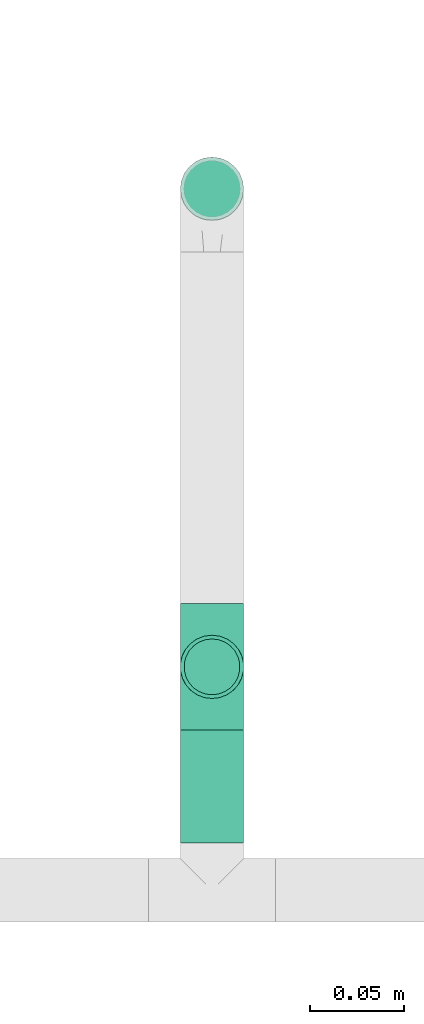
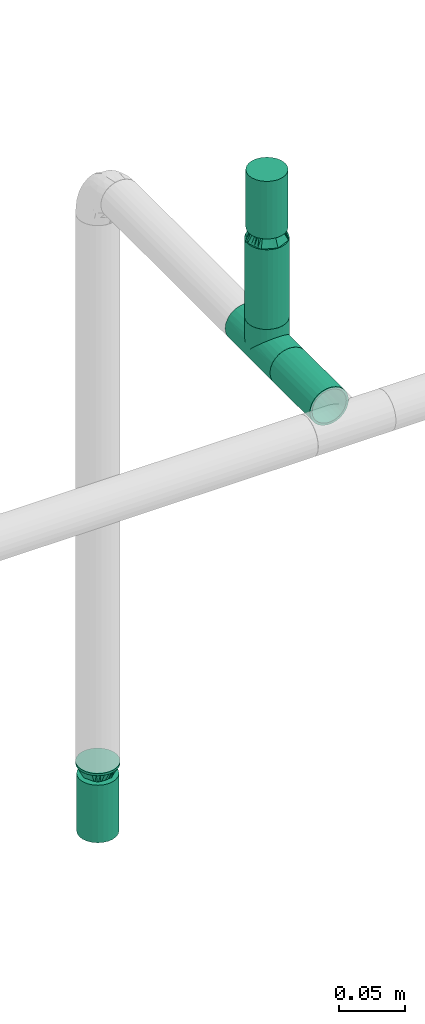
# One storey, part 31 of 51: 3 flow fittings, 2 flow segments, 2 flow terminals.
"""IFC2X3 building model written with IfcOpenShell, lengths in millimetres."""

from ifc_helpers import new_model, entity, si_unit, converted_unit, derived_unit, direction, frame, origin_with_axes, origin_2d_with_axis, place, context, subcontext, project, spatial, hollow_circle, extrude, open_shell, surface_model, source, transform, mapped, type_object, element, save


model = new_model("IFC2X3")

# Units and contexts
model_context = context("Model", 3, precision=0.01, world=frame((0.0, 4.29681676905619e-09, 0.0)), true_north=direction((4.01073788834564e-13, 1.0)))
plan_context = context("Plan", 3, precision=0.01, world=frame((0.0, 4.29681676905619e-09, 0.0)), true_north=direction((4.01073788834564e-13, 1.0)))
body_context = subcontext(model_context, "Body", "Model", "MODEL_VIEW")
ifc_project = project(units=[converted_unit("PLANEANGLEUNIT", "DEGREE", entity("IfcPositiveLengthMeasure", 0.0174532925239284), si_unit("PLANEANGLEUNIT", "RADIAN"), dimensions=[0, 0, 0, 0, 0, 0, 0]), si_unit("AREAUNIT", "SQUARE_METRE"), si_unit("LENGTHUNIT", "METRE", prefix="MILLI"), si_unit("MASSUNIT", "GRAM", prefix="KILO"), si_unit("POWERUNIT", "WATT"), si_unit("PRESSUREUNIT", "PASCAL"), si_unit("FORCEUNIT", "NEWTON", prefix="KILO"), si_unit("ELECTRICVOLTAGEUNIT", "VOLT"), si_unit("ELECTRICCURRENTUNIT", "AMPERE"), si_unit("THERMODYNAMICTEMPERATUREUNIT", "DEGREE_CELSIUS"), si_unit("TIMEUNIT", "SECOND"), si_unit("VOLUMEUNIT", "CUBIC_METRE"), derived_unit("LINEARVELOCITYUNIT", [(si_unit("LENGTHUNIT", "METRE"), 1), (si_unit("TIMEUNIT", "SECOND"), -1)]), derived_unit("VOLUMETRICFLOWRATEUNIT", [(si_unit("VOLUMEUNIT", "CUBIC_METRE"), 1), (si_unit("TIMEUNIT", "SECOND"), -1)]), derived_unit("THERMALTRANSMITTANCEUNIT", [(si_unit("POWERUNIT", "WATT"), 1), (si_unit("THERMODYNAMICTEMPERATUREUNIT", "KELVIN"), -1), (si_unit("AREAUNIT", "SQUARE_METRE"), -1)]), derived_unit("SOUNDPRESSUREUNIT", [(si_unit("PRESSUREUNIT", "PASCAL"), 1)])], contexts=[model_context, plan_context])

# Site, building, storey
site_placement = place(None, frame((0.0, -4.29681676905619e-09, 0.0), z_axis=(0.0, 0.0, 1.0), x_axis=(1.0, 0.0, 0.0)))
site = spatial("IfcSite", under=ifc_project, at=site_placement, Name="ENGM", CompositionType="ELEMENT")
building_placement = place(site_placement, frame((0.0, 4.29681676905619e-09, 0.0), z_axis=(0.0, 0.0, 1.0), x_axis=(1.0, 0.0, 0.0)))
building = spatial("IfcBuilding", under=site, at=building_placement, Name="TH", CompositionType="ELEMENT")
storey_placement = place(building_placement, frame((0.0, 0.0, 210200.0), z_axis=(0.0, 0.0, 1.0), x_axis=(1.0, 0.0, 0.0)))
storey = spatial("IfcBuildingStorey", under=building, at=storey_placement, Name="Nivå F - 0,7 m", CompositionType="ELEMENT", Elevation=210200.0)

# Flow fittings
pipe_fitting_type_1 = type_object("IfcPipeFittingType", Name="magi_pipe_fe_reducer_centric_short_NOR", PredefinedType="TRANSITION")
shared_shape_1 = source(origin_with_axes(), body_context, "Body", "SurfaceModel", [
    surface_model("IfcShellBasedSurfaceModel", [(14.4, 5.35, -9.26647), (14.4, 0.0, -10.7), (14.4, 2.76936, -10.33541), (14.4, 10.33541, -2.76936), (14.4, 7.56604, -7.56604), (14.4, 9.26647, -5.35), (14.4, -5.35, -9.26647), (14.4, -2.76936, -10.33541), (14.4, -7.56604, -7.56604), (14.4, -10.33541, -2.76936), (14.4, -9.26647, -5.35), (14.4, 10.33541, 2.76936), (14.4, 9.26647, 5.35), (14.4, 7.56604, 7.56604), (14.4, 2.76936, 10.33541), (14.4, 5.35, 9.26647), (14.4, -7.56604, 7.56604), (14.4, -2.76936, 10.33541), (14.4, -5.35, 9.26647), (12.4, 7.56604, 7.56604), (12.4, 9.26647, 5.35), (12.4, 10.33541, 2.76936), (12.4, -2.76936, 10.33541), (12.4, -7.56604, 7.56604), (12.4, -5.35, 9.26647), (12.4, -10.33541, 2.76936), (12.4, -9.26647, 5.35), (12.4, 0.0, 10.7), (12.4, -10.33541, -2.76936), (12.4, -10.7, 0.0), (12.4, -5.35, -9.26647), (12.4, 0.0, -10.7), (12.4, -2.76936, -10.33541), (12.4, 2.76936, -10.33541), (12.4, 10.33541, -2.76936), (12.4, 10.7, 0.0), (12.4, -9.26647, -5.35), (12.4, -7.56604, -7.56604), (14.4, -10.7, 0.0), (12.4, 5.35, -9.26647), (12.4, 7.56604, -7.56604), (12.4, 9.26647, -5.35), (14.4, 10.7, 0.0), (12.4, 5.35, 9.26647), (12.4, 2.76936, 10.33541), (14.4, 0.0, 10.7), (14.4, -9.26647, 5.35), (14.4, -10.33541, 2.76936), (-2.0, 11.9501, 11.9501), (-2.0, 0.0, 16.9), (-2.0, 4.37404, 16.32415), (-2.0, 8.45, 14.63583), (-2.0, 14.63583, 8.45), (-2.0, 16.32415, 4.37404), (-2.0, -16.32415, 4.37404), (-2.0, -8.45, 14.63583), (-2.0, -14.63583, 8.45), (-2.0, -11.9501, 11.9501), (-2.0, -4.37404, 16.32415), (-2.0, -16.32415, -4.37404), (-2.0, -16.9, 0.0), (-2.0, -8.45, -14.63583), (-2.0, 16.32415, -4.37404), (-2.0, 11.9501, -11.9501), (-2.0, 14.63583, -8.45), (-2.0, 8.45, -14.63583), (-2.0, 4.37404, -16.32415), (-2.0, 0.0, -16.9), (-2.0, -11.9501, -11.9501), (-2.0, -14.63583, -8.45), (-2.0, -4.37404, -16.32415), (-2.0, 16.9, 0.0), (0.0, 4.37404, -16.32415), (0.0, 8.45, -14.63583), (0.0, 11.9501, -11.9501), (0.0, 0.0, -16.9), (0.0, 16.32415, -4.37404), (0.0, 16.32415, 4.37404), (0.0, 14.63583, -8.45), (0.0, -8.45, -14.63583), (0.0, -4.37404, -16.32415), (0.0, -11.9501, -11.9501), (0.0, -16.32415, -4.37404), (0.0, -14.63583, -8.45), (0.0, -16.32415, 4.37404), (0.0, 16.9, 0.0), (0.0, 14.63583, 8.45), (0.0, 11.9501, 11.9501), (0.0, 4.37404, 16.32415), (0.0, 8.45, 14.63583), (0.0, 0.0, 16.9), (0.0, -14.63583, 8.45), (0.0, -16.9, 0.0), (0.0, -8.45, 14.63583), (0.0, -11.9501, 11.9501), (0.0, -4.37404, 16.32415), (12.4, 9.3625, -2.31662), (0.0, 14.42505, -5.97505), (0.0, 15.66253, -2.98753), (12.4, -6.6875, -6.94985), (0.0, -13.18758, -8.96258), (0.0, 2.98753, -15.66253), (12.4, 0.0, -9.26647), (12.4, 6.6875, -6.94985), (0.0, 8.96258, -13.18758), (12.4, -9.3625, -2.31662), (0.0, -15.66253, -2.98753), (0.0, -14.42505, -5.97505), (0.0, 5.97505, -14.42505), (0.0, -2.98753, -15.66253), (0.0, -8.96258, -13.18758), (0.0, 13.18758, -8.96258), (12.4, 8.025, -4.63324), (12.4, -2.675, -9.26647), (12.4, 2.675, -9.26647), (0.0, -5.97505, -14.42505), (12.4, -8.025, -4.63324), (12.4, -9.3625, 2.31662), (0.0, -14.42505, 5.97505), (0.0, -15.66253, 2.98753), (12.4, 6.6875, 6.94985), (0.0, 13.18758, 8.96258), (0.0, -2.98753, 15.66253), (12.4, 0.0, 9.26647), (12.4, -6.6875, 6.94985), (0.0, -8.96258, 13.18758), (12.4, 9.3625, 2.31662), (0.0, 15.66253, 2.98753), (0.0, 14.42505, 5.97505), (0.0, -5.97505, 14.42505), (0.0, 2.98753, 15.66253), (0.0, 8.96258, 13.18758), (0.0, -13.18758, 8.96258), (12.4, -8.025, 4.63324), (12.4, 2.675, 9.26647), (12.4, -2.675, 9.26647), (0.0, 5.97505, 14.42505), (12.4, 8.025, 4.63324)], [open_shell([[[0, 1, 2]], [[3, 0, 4]], [[3, 4, 5]], [[1, 6, 7]], [[1, 0, 6]], [[8, 9, 10]], [[9, 8, 6]], [[11, 12, 13]], [[14, 13, 15]], [[16, 17, 18]], [[19, 20, 21]], [[22, 23, 24]], [[23, 22, 25]], [[23, 25, 26]], [[22, 27, 25]], [[25, 28, 29]], [[30, 31, 32]], [[30, 28, 33]], [[33, 31, 30]], [[34, 21, 35]], [[28, 9, 29]], [[36, 10, 28]], [[6, 37, 30]], [[36, 37, 8]], [[7, 30, 32]], [[28, 10, 9]], [[9, 38, 29]], [[7, 6, 30]], [[8, 37, 6]], [[8, 10, 36]], [[1, 7, 32]], [[32, 31, 1]], [[33, 2, 31]], [[39, 0, 33]], [[5, 40, 41]], [[39, 40, 4]], [[3, 41, 34]], [[39, 4, 0]], [[0, 2, 33]], [[42, 3, 34]], [[5, 41, 3]], [[5, 4, 40]], [[35, 42, 34]], [[31, 2, 1]], [[21, 11, 35]], [[20, 12, 21]], [[15, 19, 43]], [[20, 19, 13]], [[14, 43, 44]], [[21, 12, 11]], [[11, 42, 35]], [[14, 15, 43]], [[13, 19, 15]], [[13, 12, 20]], [[45, 14, 44]], [[44, 27, 45]], [[22, 17, 27]], [[24, 18, 22]], [[46, 23, 26]], [[24, 23, 16]], [[47, 26, 25]], [[24, 16, 18]], [[18, 17, 22]], [[38, 47, 25]], [[46, 26, 47]], [[46, 16, 23]], [[29, 38, 25]], [[27, 17, 45]], [[48, 49, 50]], [[48, 50, 51]], [[48, 52, 53]], [[48, 53, 49]], [[49, 53, 54]], [[55, 56, 57]], [[55, 58, 49]], [[56, 55, 49]], [[49, 54, 56]], [[54, 59, 60]], [[54, 53, 61]], [[53, 62, 63]], [[63, 62, 64]], [[63, 65, 66]], [[61, 53, 63]], [[67, 63, 66]], [[59, 68, 69]], [[68, 59, 61]], [[61, 67, 70]], [[59, 54, 61]], [[63, 67, 61]], [[53, 71, 62]], [[72, 73, 74]], [[75, 72, 74]], [[74, 76, 77]], [[76, 74, 78]], [[74, 77, 79]], [[75, 79, 80]], [[75, 74, 79]], [[81, 82, 83]], [[82, 81, 79]], [[79, 84, 82]], [[77, 76, 85]], [[77, 86, 87]], [[77, 87, 88]], [[88, 84, 79]], [[88, 87, 89]], [[84, 88, 90]], [[90, 91, 84]], [[92, 82, 84]], [[91, 93, 94]], [[91, 90, 93]], [[93, 90, 95]], [[79, 77, 88]], [[59, 82, 60]], [[69, 83, 59]], [[79, 68, 61]], [[69, 68, 81]], [[80, 61, 70]], [[59, 83, 82]], [[82, 92, 60]], [[80, 79, 61]], [[81, 68, 79]], [[81, 83, 69]], [[75, 80, 70]], [[70, 67, 75]], [[66, 72, 67]], [[65, 73, 66]], [[78, 63, 64]], [[65, 63, 74]], [[76, 64, 62]], [[65, 74, 73]], [[73, 72, 66]], [[85, 76, 62]], [[78, 64, 76]], [[78, 74, 63]], [[71, 85, 62]], [[67, 72, 75]], [[53, 77, 71]], [[52, 86, 53]], [[89, 48, 51]], [[52, 48, 87]], [[88, 51, 50]], [[53, 86, 77]], [[77, 85, 71]], [[88, 89, 51]], [[87, 48, 89]], [[87, 86, 52]], [[90, 88, 50]], [[50, 49, 90]], [[58, 95, 49]], [[55, 93, 58]], [[91, 57, 56]], [[55, 57, 94]], [[84, 56, 54]], [[55, 94, 93]], [[93, 95, 58]], [[92, 84, 54]], [[91, 56, 84]], [[91, 94, 57]], [[60, 92, 54]], [[49, 95, 90]], [[43, 24, 35]], [[35, 24, 30]], [[30, 39, 35]], [[30, 24, 29]], [[87, 74, 92]], [[75, 92, 74]], [[81, 92, 75]], [[74, 87, 85]], [[96, 97, 98]], [[81, 99, 100]], [[101, 102, 75]], [[98, 85, 35]], [[74, 103, 104]], [[104, 103, 39]], [[105, 106, 107]], [[39, 108, 104]], [[102, 109, 75]], [[110, 99, 81]], [[35, 96, 98]], [[103, 111, 112]], [[109, 102, 113]], [[29, 92, 106]], [[102, 101, 114]], [[110, 115, 30]], [[96, 112, 97]], [[107, 116, 105]], [[29, 106, 105]], [[113, 115, 109]], [[30, 115, 113]], [[116, 107, 100]], [[108, 39, 114]], [[111, 103, 74]], [[111, 97, 112]], [[99, 110, 30]], [[116, 100, 99]], [[101, 108, 114]], [[117, 118, 119]], [[87, 120, 121]], [[122, 123, 90]], [[119, 92, 29]], [[94, 124, 125]], [[125, 124, 24]], [[126, 127, 128]], [[24, 129, 125]], [[123, 130, 90]], [[131, 120, 87]], [[29, 117, 119]], [[124, 132, 133]], [[130, 123, 134]], [[35, 85, 127]], [[123, 122, 135]], [[131, 136, 43]], [[117, 133, 118]], [[128, 137, 126]], [[35, 127, 126]], [[134, 136, 130]], [[43, 136, 134]], [[137, 128, 121]], [[129, 24, 135]], [[132, 124, 94]], [[132, 118, 133]], [[120, 131, 43]], [[137, 121, 120]], [[122, 129, 135]], [[6, 0, 3]], [[46, 6, 3]], [[6, 46, 9]], [[11, 3, 42]], [[3, 13, 46]], [[14, 45, 13]], [[46, 13, 45]], [[9, 47, 38]], [[46, 47, 9]], [[17, 16, 46]], [[45, 17, 46]], [[3, 11, 13]], [[27, 44, 43]], [[27, 43, 19]], [[27, 19, 25]], [[34, 25, 19]], [[34, 19, 21]], [[28, 25, 34]], [[33, 34, 41]], [[40, 39, 33]], [[40, 33, 41]], [[28, 34, 33]], [[28, 37, 36]], [[37, 28, 30]], [[90, 87, 92]], [[92, 94, 90]]])]),
])
flow_fitting_1_placement = place(storey_placement, frame((900100.0, 486575.40642, 2409.35200000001), z_axis=(0.0, -1.0, 0.0), x_axis=(0.0, 0.0, -1.0)))
element("IfcFlowFitting", 1, at=flow_fitting_1_placement, inside=storey, type_object=pipe_fitting_type_1, Name="magi_pipe_fe_reducer_centric_short_NOR", context=body_context, shape_type="MappedRepresentation", body=[
    mapped(shared_shape_1, transform((0.0, 0.0, 0.0), scale=1.0)),
])
shared_shape_2 = source(origin_with_axes(), body_context, "Body", "SurfaceModel", [
    surface_model("IfcShellBasedSurfaceModel", [(14.4, 4.37404, -16.32415), (14.4, 8.45, -14.63583), (14.4, 11.9501, -11.9501), (14.4, -8.45, -14.63583), (14.4, 16.32415, -4.37404), (14.4, 16.32415, 4.37404), (14.4, 14.63583, -8.45), (14.4, 0.0, -16.9), (14.4, -4.37404, -16.32415), (14.4, -11.9501, -11.9501), (14.4, -16.32415, -4.37404), (14.4, -14.63583, -8.45), (14.4, -16.32415, 4.37404), (14.4, 16.9, 0.0), (14.4, 14.63583, 8.45), (14.4, 11.9501, 11.9501), (14.4, 4.37404, 16.32415), (14.4, 8.45, 14.63583), (14.4, 0.0, 16.9), (14.4, -14.63583, 8.45), (14.4, -16.9, 0.0), (14.4, -8.45, 14.63583), (14.4, -11.9501, 11.9501), (14.4, -4.37404, 16.32415), (12.4, 4.37404, 16.32415), (12.4, -14.63583, 8.45), (12.4, 0.0, 16.9), (12.4, 16.32415, 4.37404), (12.4, 8.45, 14.63583), (12.4, 11.9501, 11.9501), (12.4, 14.63583, 8.45), (12.4, -8.45, 14.63583), (12.4, -11.9501, 11.9501), (12.4, -4.37404, 16.32415), (12.4, -16.32415, 4.37404), (12.4, -16.32415, -4.37404), (12.4, -16.9, 0.0), (12.4, -8.45, -14.63583), (12.4, 16.32415, -4.37404), (12.4, 11.9501, -11.9501), (12.4, 14.63583, -8.45), (12.4, 8.45, -14.63583), (12.4, 4.37404, -16.32415), (12.4, 0.0, -16.9), (12.4, -11.9501, -11.9501), (12.4, -14.63583, -8.45), (12.4, -4.37404, -16.32415), (12.4, 16.9, 0.0), (-2.0, 10.33541, 2.76936), (-2.0, 0.0, 10.7), (-2.0, 2.76936, 10.33541), (-2.0, 7.56604, 7.56604), (-2.0, 5.35, 9.26647), (-2.0, 9.26647, 5.35), (-2.0, -9.26647, 5.35), (-2.0, -2.76936, 10.33541), (-2.0, -7.56604, 7.56604), (-2.0, -5.35, 9.26647), (-2.0, -10.33541, 2.76936), (-2.0, -10.33541, -2.76936), (-2.0, -10.7, 0.0), (-2.0, 10.33541, -2.76936), (-2.0, 7.56604, -7.56604), (-2.0, 9.26647, -5.35), (-2.0, 5.35, -9.26647), (-2.0, -5.35, -9.26647), (-2.0, 2.76936, -10.33541), (-2.0, -7.56604, -7.56604), (-2.0, -9.26647, -5.35), (-2.0, 0.0, -10.7), (-2.0, -2.76936, -10.33541), (-2.0, 10.7, 0.0), (0.0, 5.35, -9.26647), (0.0, 0.0, -10.7), (0.0, 2.76936, -10.33541), (0.0, 10.33541, -2.76936), (0.0, 7.56604, -7.56604), (0.0, -5.35, -9.26647), (0.0, 9.26647, -5.35), (0.0, -9.26647, 5.35), (0.0, -2.76936, -10.33541), (0.0, -7.56604, -7.56604), (0.0, -10.33541, -2.76936), (0.0, -9.26647, -5.35), (0.0, 10.33541, 2.76936), (0.0, 10.7, 0.0), (0.0, 9.26647, 5.35), (0.0, 7.56604, 7.56604), (0.0, 2.76936, 10.33541), (0.0, 0.0, 10.7), (0.0, 5.35, 9.26647), (0.0, -10.33541, 2.76936), (0.0, -10.7, 0.0), (0.0, -7.56604, 7.56604), (0.0, -2.76936, 10.33541), (0.0, -5.35, 9.26647), (0.0, -9.3625, -2.31662), (12.4, -14.42505, -5.97505), (12.4, -15.66253, -2.98753), (0.0, 6.6875, -6.94985), (12.4, 8.96258, -13.18758), (0.0, -6.6875, -6.94985), (12.4, -8.96258, -13.18758), (0.0, 9.3625, -2.31662), (12.4, 15.66253, -2.98753), (12.4, 14.42505, -5.97505), (12.4, -5.97505, -14.42505), (12.4, 5.97505, -14.42505), (0.0, 2.675, -9.26647), (12.4, 13.18758, -8.96258), (0.0, -2.675, -9.26647), (12.4, -13.18758, -8.96258), (0.0, -8.025, -4.63324), (12.4, 2.98753, -15.66253), (0.0, 0.0, -9.26647), (12.4, -2.98753, -15.66253), (0.0, 8.025, -4.63324), (0.0, 9.3625, 2.31662), (12.4, 14.42505, 5.97505), (12.4, 15.66253, 2.98753), (0.0, -6.6875, 6.94985), (12.4, -8.96258, 13.18758), (0.0, 6.6875, 6.94985), (12.4, 8.96258, 13.18758), (0.0, -9.3625, 2.31662), (12.4, -15.66253, 2.98753), (12.4, -14.42505, 5.97505), (12.4, 5.97505, 14.42505), (12.4, -5.97505, 14.42505), (0.0, -2.675, 9.26647), (12.4, -13.18758, 8.96258), (0.0, 2.675, 9.26647), (12.4, 13.18758, 8.96258), (0.0, 8.025, 4.63324), (12.4, -2.98753, 15.66253), (0.0, 0.0, 9.26647), (12.4, 2.98753, 15.66253), (0.0, -8.025, 4.63324)], [open_shell([[[0, 1, 2]], [[3, 0, 2]], [[2, 4, 5]], [[4, 2, 6]], [[2, 5, 3]], [[7, 3, 8]], [[7, 0, 3]], [[9, 10, 11]], [[10, 9, 3]], [[3, 12, 10]], [[5, 4, 13]], [[5, 14, 15]], [[5, 15, 16]], [[16, 12, 3]], [[16, 15, 17]], [[12, 16, 18]], [[18, 19, 12]], [[20, 10, 12]], [[19, 21, 22]], [[19, 18, 21]], [[21, 18, 23]], [[3, 5, 16]], [[24, 25, 26]], [[27, 24, 28]], [[29, 30, 27]], [[29, 27, 28]], [[25, 24, 27]], [[31, 25, 32]], [[31, 33, 26]], [[26, 25, 31]], [[34, 25, 27]], [[34, 35, 36]], [[34, 27, 37]], [[27, 38, 39]], [[39, 38, 40]], [[39, 41, 42]], [[37, 27, 39]], [[42, 43, 39]], [[35, 44, 45]], [[44, 35, 37]], [[37, 43, 46]], [[35, 34, 37]], [[39, 43, 37]], [[38, 27, 47]], [[35, 10, 36]], [[45, 11, 35]], [[3, 44, 37]], [[45, 44, 9]], [[8, 37, 46]], [[35, 11, 10]], [[10, 20, 36]], [[8, 3, 37]], [[9, 44, 3]], [[9, 11, 45]], [[7, 8, 46]], [[46, 43, 7]], [[42, 0, 43]], [[41, 1, 42]], [[6, 39, 40]], [[41, 39, 2]], [[4, 40, 38]], [[41, 2, 1]], [[1, 0, 42]], [[13, 4, 38]], [[6, 40, 4]], [[6, 2, 39]], [[47, 13, 38]], [[43, 0, 7]], [[27, 5, 47]], [[30, 14, 27]], [[17, 29, 28]], [[30, 29, 15]], [[16, 28, 24]], [[27, 14, 5]], [[5, 13, 47]], [[16, 17, 28]], [[15, 29, 17]], [[15, 14, 30]], [[18, 16, 24]], [[24, 26, 18]], [[33, 23, 26]], [[31, 21, 33]], [[19, 32, 25]], [[31, 32, 22]], [[12, 25, 34]], [[31, 22, 21]], [[21, 23, 33]], [[20, 12, 34]], [[19, 25, 12]], [[19, 22, 32]], [[36, 20, 34]], [[26, 23, 18]], [[48, 49, 50]], [[51, 50, 52]], [[51, 53, 48]], [[51, 48, 50]], [[49, 48, 54]], [[55, 56, 57]], [[56, 55, 54]], [[58, 59, 60]], [[54, 55, 49]], [[58, 54, 59]], [[54, 48, 61]], [[59, 54, 61]], [[62, 61, 63]], [[59, 62, 64]], [[61, 62, 59]], [[65, 64, 66]], [[59, 67, 68]], [[67, 59, 65]], [[65, 69, 70]], [[65, 59, 64]], [[66, 69, 65]], [[61, 48, 71]], [[72, 73, 74]], [[75, 72, 76]], [[77, 72, 75]], [[75, 76, 78]], [[79, 77, 75]], [[73, 77, 80]], [[73, 72, 77]], [[81, 82, 83]], [[82, 81, 77]], [[77, 79, 82]], [[84, 75, 85]], [[84, 86, 87]], [[75, 87, 79]], [[88, 89, 87]], [[88, 87, 90]], [[79, 87, 89]], [[82, 91, 92]], [[79, 91, 82]], [[93, 94, 95]], [[94, 93, 79]], [[89, 94, 79]], [[75, 84, 87]], [[59, 82, 60]], [[68, 83, 59]], [[77, 67, 65]], [[68, 67, 81]], [[80, 65, 70]], [[59, 83, 82]], [[82, 92, 60]], [[80, 77, 65]], [[81, 67, 77]], [[81, 83, 68]], [[73, 80, 70]], [[70, 69, 73]], [[66, 74, 69]], [[64, 72, 66]], [[78, 62, 63]], [[64, 62, 76]], [[75, 63, 61]], [[64, 76, 72]], [[72, 74, 66]], [[85, 75, 61]], [[78, 63, 75]], [[78, 76, 62]], [[71, 85, 61]], [[69, 74, 73]], [[48, 84, 71]], [[53, 86, 48]], [[90, 51, 52]], [[53, 51, 87]], [[88, 52, 50]], [[48, 86, 84]], [[84, 85, 71]], [[88, 90, 52]], [[87, 51, 90]], [[87, 86, 53]], [[89, 88, 50]], [[50, 49, 89]], [[55, 94, 49]], [[57, 95, 55]], [[79, 56, 54]], [[57, 56, 93]], [[91, 54, 58]], [[57, 93, 95]], [[95, 94, 55]], [[92, 91, 58]], [[79, 54, 91]], [[79, 93, 56]], [[60, 92, 58]], [[49, 94, 89]], [[29, 26, 39]], [[39, 47, 29]], [[36, 26, 32]], [[36, 44, 43]], [[43, 39, 36]], [[36, 39, 26]], [[92, 95, 77]], [[85, 95, 90]], [[85, 72, 77]], [[85, 77, 95]], [[96, 97, 98]], [[92, 96, 98]], [[99, 100, 72]], [[98, 36, 92]], [[44, 101, 102]], [[101, 77, 102]], [[103, 104, 105]], [[85, 47, 104]], [[77, 106, 102]], [[107, 108, 72]], [[109, 39, 99]], [[106, 77, 110]], [[101, 111, 112]], [[113, 114, 108]], [[100, 99, 39]], [[110, 115, 106]], [[99, 116, 109]], [[100, 107, 72]], [[96, 112, 97]], [[105, 116, 103]], [[85, 104, 103]], [[108, 107, 113]], [[113, 43, 114]], [[116, 105, 109]], [[114, 115, 110]], [[43, 115, 114]], [[111, 101, 44]], [[111, 97, 112]], [[117, 118, 119]], [[85, 117, 119]], [[120, 121, 95]], [[119, 47, 85]], [[29, 122, 123]], [[122, 90, 123]], [[124, 125, 126]], [[92, 36, 125]], [[90, 127, 123]], [[128, 129, 95]], [[130, 32, 120]], [[127, 90, 131]], [[122, 132, 133]], [[134, 135, 129]], [[121, 120, 32]], [[131, 136, 127]], [[120, 137, 130]], [[121, 128, 95]], [[117, 133, 118]], [[126, 137, 124]], [[92, 125, 124]], [[129, 128, 134]], [[134, 26, 135]], [[137, 126, 130]], [[135, 136, 131]], [[26, 136, 135]], [[132, 122, 29]], [[132, 118, 133]]])]),
])
flow_fitting_2_placement = place(storey_placement, frame((900100.0, 486320.30177, 3060.65001000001), z_axis=(1.0, 0.0, 0.0), x_axis=(0.0, 0.0, -1.0)))
element("IfcFlowFitting", 2, at=flow_fitting_2_placement, inside=storey, type_object=pipe_fitting_type_1, Name="magi_pipe_fe_reducer_centric_short_NOR", context=body_context, shape_type="MappedRepresentation", body=[
    mapped(shared_shape_2, transform((0.0, 0.0, 0.0), scale=1.0)),
])
pipe_fitting_type_2 = type_object("IfcPipeFittingType", Name="magi_pipe_fe_tee_centric_90_NOR", PredefinedType="JUNCTION")
shared_shape_3 = source(origin_with_axes(), body_context, "Body", "SurfaceModel", [
    surface_model("IfcShellBasedSurfaceModel", [(-33.8, 4.37404, -16.32415), (-33.8, 0.0, -16.9), (-33.8, 16.32415, -4.37404), (-33.8, 8.45, -14.63583), (-33.8, 11.9501, -11.9501), (-33.8, 14.63583, -8.45), (-33.8, -16.9, 0.0), (-33.8, -11.9501, -11.9501), (-33.8, -14.63583, -8.45), (-33.8, -8.45, -14.63583), (-33.8, -4.37404, -16.32415), (-33.8, -16.32415, -4.37404), (-33.8, 14.63583, 8.45), (-33.8, 16.32415, 4.37404), (-33.8, -8.45, 14.63583), (-33.8, 8.45, 14.63583), (-33.8, 11.9501, 11.9501), (-33.8, 4.37404, 16.32415), (-33.8, 0.0, 16.9), (-33.8, -11.9501, 11.9501), (-33.8, -14.63583, 8.45), (-33.8, -16.32415, 4.37404), (-33.8, -4.37404, 16.32415), (-33.8, 16.9, 0.0), (33.8, 4.37404, -16.32415), (33.8, -16.9, 0.0), (33.8, 0.0, -16.9), (33.8, 14.63583, -8.45), (33.8, 8.45, -14.63583), (33.8, 16.32415, -4.37404), (33.8, 11.9501, -11.9501), (33.8, -16.32415, 4.37404), (33.8, -8.45, -14.63583), (33.8, -4.37404, -16.32415), (33.8, -11.9501, -11.9501), (33.8, -14.63583, -8.45), (33.8, -16.32415, -4.37404), (33.8, 16.32415, 4.37404), (33.8, 8.45, 14.63583), (33.8, 14.63583, 8.45), (33.8, 11.9501, 11.9501), (33.8, -8.45, 14.63583), (33.8, 4.37404, 16.32415), (33.8, -14.63583, 8.45), (33.8, -11.9501, 11.9501), (33.8, 0.0, 16.9), (33.8, -4.37404, 16.32415), (33.8, 16.9, 0.0), (16.28698, -16.28698, 4.51047), (16.9, -16.9, 0.0), (14.62704, -14.62704, 8.4652), (9.47213, -9.47213, 13.99602), (12.26343, -12.26343, 11.62834), (-16.9, -16.9, 0.0), (-16.28698, -16.28698, 4.51047), (-14.62704, -14.62704, 8.4652), (-12.26343, -12.26343, 11.62834), (-9.47213, -9.47213, 13.99602), (-6.42894, -6.42894, 15.62942), (6.42894, -6.42894, 15.62942), (3.24522, -3.24522, 16.58549), (0.0, 0.0, 16.9), (-3.24522, -3.24522, 16.58549), (3.24522, -3.24522, -16.58549), (0.0, 0.0, -16.9), (-3.24522, -3.24522, -16.58549), (-6.42894, -6.42894, -15.62942), (6.42894, -6.42894, -15.62942), (9.47213, -9.47213, -13.99602), (12.26343, -12.26343, -11.62834), (14.62704, -14.62704, -8.4652), (16.28698, -16.28698, -4.51047), (-9.47213, -9.47213, -13.99602), (-12.26343, -12.26343, -11.62834), (-16.28698, -16.28698, -4.51047), (-14.62704, -14.62704, -8.4652), (4.37404, -25.35, -16.32415), (-16.9, -25.35, 0.0), (0.0, -25.35, -16.9), (14.63583, -25.35, -8.45), (8.45, -25.35, -14.63583), (16.32415, -25.35, -4.37404), (11.9501, -25.35, -11.9501), (-11.9501, -25.35, -11.9501), (-8.45, -25.35, -14.63583), (-4.37404, -25.35, -16.32415), (-14.63583, -25.35, -8.45), (-16.32415, -25.35, -4.37404), (16.9, -25.35, 0.0), (8.45, -25.35, 14.63583), (16.32415, -25.35, 4.37404), (14.63583, -25.35, 8.45), (-8.45, -25.35, 14.63583), (11.9501, -25.35, 11.9501), (4.37404, -25.35, 16.32415), (-16.32415, -25.35, 4.37404), (-11.9501, -25.35, 11.9501), (-14.63583, -25.35, 8.45), (0.0, -25.35, 16.9), (-4.37404, -25.35, 16.32415)], [open_shell([[[0, 1, 2]], [[3, 0, 4]], [[0, 2, 5]], [[4, 0, 5]], [[6, 2, 1]], [[7, 8, 9]], [[1, 10, 9]], [[11, 6, 8]], [[1, 9, 8]], [[1, 8, 6]], [[6, 12, 2]], [[12, 13, 2]], [[14, 12, 6]], [[12, 14, 15]], [[16, 12, 15]], [[17, 15, 18]], [[19, 14, 20]], [[21, 20, 14]], [[22, 18, 14]], [[14, 6, 21]], [[14, 18, 15]], [[23, 2, 13]], [[24, 25, 26]], [[27, 24, 28]], [[27, 29, 24]], [[27, 28, 30]], [[31, 25, 24]], [[26, 32, 33]], [[26, 34, 32]], [[35, 25, 36]], [[35, 34, 26]], [[25, 35, 26]], [[24, 29, 31]], [[29, 37, 38]], [[38, 37, 39]], [[38, 31, 29]], [[38, 39, 40]], [[41, 38, 42]], [[43, 41, 44]], [[41, 43, 31]], [[41, 45, 46]], [[41, 31, 38]], [[42, 45, 41]], [[29, 47, 37]], [[31, 43, 48]], [[25, 31, 49]], [[49, 31, 48]], [[43, 50, 48]], [[44, 41, 51]], [[50, 43, 52]], [[51, 52, 44]], [[52, 43, 44]], [[53, 54, 21]], [[53, 21, 6]], [[21, 54, 20]], [[54, 55, 20]], [[56, 57, 19]], [[19, 20, 56]], [[19, 57, 14]], [[56, 20, 55]], [[14, 57, 58]], [[51, 41, 59]], [[60, 45, 61]], [[59, 46, 60]], [[46, 59, 41]], [[60, 46, 45]], [[61, 45, 42]], [[39, 37, 13]], [[16, 38, 40]], [[12, 40, 39]], [[42, 38, 15]], [[23, 37, 47]], [[62, 61, 18]], [[62, 22, 58]], [[22, 62, 18]], [[58, 22, 14]], [[61, 17, 18]], [[42, 17, 61]], [[15, 17, 42]], [[15, 38, 16]], [[12, 16, 40]], [[13, 12, 39]], [[37, 23, 13]], [[5, 27, 30]], [[23, 47, 29]], [[30, 28, 3]], [[27, 2, 29]], [[26, 33, 63]], [[26, 64, 24]], [[64, 26, 63]], [[28, 24, 0]], [[64, 0, 24]], [[4, 30, 3]], [[2, 27, 5]], [[5, 30, 4]], [[2, 23, 29]], [[65, 66, 10]], [[1, 0, 64]], [[1, 65, 10]], [[66, 9, 10]], [[0, 3, 28]], [[1, 64, 65]], [[63, 33, 67]], [[32, 34, 68]], [[69, 68, 34]], [[35, 70, 69]], [[69, 34, 35]], [[32, 68, 67]], [[36, 25, 49]], [[36, 71, 35]], [[71, 36, 49]], [[35, 71, 70]], [[72, 9, 66]], [[72, 7, 9]], [[7, 72, 73]], [[7, 73, 8]], [[74, 53, 11]], [[75, 74, 8]], [[74, 11, 8]], [[11, 53, 6]], [[75, 8, 73]], [[32, 67, 33]], [[76, 77, 78]], [[79, 76, 80]], [[79, 81, 76]], [[79, 80, 82]], [[77, 76, 81]], [[78, 83, 84]], [[84, 85, 78]], [[86, 77, 87]], [[83, 78, 86]], [[77, 86, 78]], [[81, 88, 77]], [[89, 88, 90]], [[89, 90, 91]], [[92, 77, 89]], [[89, 91, 93]], [[92, 89, 94]], [[95, 96, 97]], [[96, 95, 92]], [[92, 98, 99]], [[95, 77, 92]], [[94, 98, 92]], [[89, 77, 88]], [[77, 95, 53]], [[54, 53, 95]], [[97, 96, 56]], [[96, 92, 57]], [[95, 97, 54]], [[58, 92, 99]], [[55, 54, 97]], [[56, 55, 97]], [[58, 57, 92]], [[98, 61, 62]], [[58, 99, 62]], [[56, 96, 57]], [[62, 99, 98]], [[94, 60, 98]], [[89, 59, 94]], [[91, 90, 48]], [[52, 93, 91]], [[93, 51, 89]], [[49, 90, 88]], [[59, 60, 94]], [[51, 59, 89]], [[49, 48, 90]], [[50, 52, 91]], [[48, 50, 91]], [[51, 93, 52]], [[98, 60, 61]], [[88, 81, 49]], [[71, 49, 81]], [[79, 82, 69]], [[82, 80, 68]], [[81, 79, 71]], [[67, 80, 76]], [[70, 71, 79]], [[69, 70, 79]], [[67, 68, 80]], [[78, 64, 63]], [[67, 76, 63]], [[69, 82, 68]], [[63, 76, 78]], [[85, 65, 78]], [[84, 66, 85]], [[86, 87, 74]], [[86, 73, 83]], [[72, 84, 83]], [[53, 87, 77]], [[66, 65, 85]], [[72, 66, 84]], [[53, 74, 87]], [[75, 73, 86]], [[74, 75, 86]], [[72, 83, 73]], [[78, 65, 64]]])]),
])
flow_fitting_3_placement = place(storey_placement, frame((900100.0, 486320.30177, 2949.56988), z_axis=(1.0, 0.0, 0.0), x_axis=(0.0, -1.0, 0.0)))
element("IfcFlowFitting", 3, at=flow_fitting_3_placement, inside=storey, type_object=pipe_fitting_type_2, Name="magi_pipe_fe_tee_centric_90_NOR", context=body_context, shape_type="MappedRepresentation", body=[
    mapped(shared_shape_3, transform((0.0, 0.0, 0.0), scale=1.0)),
])

# Flow segments
pipe_segment_type = type_object("IfcPipeSegmentType", Name="Stålrør normaltykke", PredefinedType="RIGIDSEGMENT")
shared_shape_4 = source(origin_with_axes(), body_context, "Body", "SweptSolid", [
    extrude(hollow_circle(Radius=16.9, WallThickness=2.0, at=origin_2d_with_axis()), frame((0.0, 0.0, 0.0), z_axis=(1.0, 0.0, 0.0), x_axis=(0.0, 1.0, 0.0)), (0.0, 0.0, 1.0), 73.3),
])
flow_segment_1_placement = place(storey_placement, frame((900100.0, 486320.30177, 3048.25000999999), z_axis=(1.0, 0.0, 0.0), x_axis=(0.0, 0.0, -1.0)))
element("IfcFlowSegment", 4, at=flow_segment_1_placement, inside=storey, type_object=pipe_segment_type, Name="Stålrør normaltykke", context=body_context, shape_type="MappedRepresentation", body=[
    mapped(shared_shape_4, transform((0.0, 0.0, 0.0), scale=1.0)),
])
shared_shape_5 = source(origin_with_axes(), body_context, "Body", "SweptSolid", [
    extrude(hollow_circle(Radius=16.9, WallThickness=2.0, at=origin_2d_with_axis()), frame((0.0, 0.0, 0.0), z_axis=(1.0, 0.0, 0.0), x_axis=(0.0, 1.0, 0.0)), (0.0, 0.0, 1.0), 60.1),
])
flow_segment_2_placement = place(storey_placement, frame((900100.0, 486226.37538, 2949.56988), z_axis=(0.0, 0.0, 1.0), x_axis=(0.0, 1.0, 0.0)))
element("IfcFlowSegment", 5, at=flow_segment_2_placement, inside=storey, type_object=pipe_segment_type, Name="Stålrør normaltykke", context=body_context, shape_type="MappedRepresentation", body=[
    mapped(shared_shape_5, transform((0.0, 0.0, 0.0), scale=1.0)),
])

# Flow terminals
fire_suppression_terminal_type_1 = type_object("IfcFireSuppressionTerminalType", Name="SP-15-K80-68DGR-STD-HIMLING", PredefinedType="NOTDEFINED")
shared_shape_6 = source(origin_with_axes(), body_context, "Body", "SurfaceModel", [
    surface_model("IfcShellBasedSurfaceModel", [(4.1411, -15.45481, 53.0), (8.0, -13.85641, 53.0), (11.31371, -11.31371, 53.0), (-8.0, -13.85641, 53.0), (15.45481, -4.1411, 53.0), (16.0, 0.0, 53.0), (13.85641, -8.0, 53.0), (0.0, -16.0, 53.0), (-4.1411, -15.45481, 53.0), (-13.85641, -8.0, 53.0), (-11.31371, -11.31371, 53.0), (-15.45481, -4.1411, 53.0), (15.45481, 4.1411, 53.0), (13.85641, 8.0, 53.0), (11.31371, 11.31371, 53.0), (-4.1411, 15.45481, 53.0), (8.0, 13.85641, 53.0), (4.1411, 15.45481, 53.0), (0.0, 16.0, 53.0), (-13.85641, 8.0, 53.0), (-15.45481, 4.1411, 53.0), (-16.0, 0.0, 53.0), (-11.31371, 11.31371, 53.0), (-8.0, 13.85641, 53.0), (0.0, 16.0, 0.0), (4.1411, 15.45481, 0.0), (8.0, 13.85641, 0.0), (-4.1411, 15.45481, 0.0), (11.31371, 11.31371, 0.0), (13.85641, 8.0, 0.0), (15.45481, 4.1411, 0.0), (-15.45481, -4.1411, 0.0), (-11.31371, 11.31371, 0.0), (-8.0, 13.85641, 0.0), (-13.85641, 8.0, 0.0), (-15.45481, 4.1411, 0.0), (-16.0, 0.0, 0.0), (4.1411, -15.45481, 0.0), (16.0, 0.0, 0.0), (15.45481, -4.1411, 0.0), (13.85641, -8.0, 0.0), (11.31371, -11.31371, 0.0), (8.0, -13.85641, 0.0), (-8.0, -13.85641, 0.0), (-13.85641, -8.0, 0.0), (-11.31371, -11.31371, 0.0), (0.0, -16.0, 0.0), (-4.1411, -15.45481, 0.0)], [open_shell([[[0, 1, 2]], [[3, 0, 2]], [[4, 5, 2]], [[4, 2, 6]], [[3, 2, 5]], [[7, 3, 8]], [[7, 0, 3]], [[3, 9, 10]], [[9, 3, 11]], [[5, 11, 3]], [[5, 12, 11]], [[12, 13, 14]], [[15, 12, 14]], [[16, 17, 18]], [[14, 16, 15]], [[18, 15, 16]], [[11, 19, 20]], [[21, 11, 20]], [[22, 15, 23]], [[15, 22, 19]], [[19, 11, 15]], [[11, 12, 15]], [[24, 25, 26]], [[27, 24, 26]], [[28, 29, 30]], [[27, 26, 28]], [[27, 28, 31]], [[27, 32, 33]], [[32, 27, 34]], [[34, 31, 35]], [[31, 34, 27]], [[35, 31, 36]], [[28, 30, 31]], [[37, 38, 39]], [[37, 39, 40]], [[41, 42, 37]], [[41, 37, 40]], [[38, 37, 43]], [[44, 43, 45]], [[43, 44, 31]], [[43, 46, 47]], [[43, 31, 38]], [[37, 46, 43]], [[38, 31, 30]], [[11, 31, 44]], [[45, 9, 44]], [[3, 43, 47]], [[45, 43, 10]], [[8, 47, 46]], [[31, 21, 36]], [[31, 11, 21]], [[44, 9, 11]], [[45, 10, 9]], [[3, 10, 43]], [[47, 8, 3]], [[46, 7, 8]], [[0, 37, 42]], [[41, 1, 42]], [[6, 40, 39]], [[41, 40, 2]], [[4, 39, 38]], [[37, 0, 7]], [[42, 1, 0]], [[41, 2, 1]], [[40, 6, 2]], [[4, 6, 39]], [[38, 5, 4]], [[37, 7, 46]], [[12, 38, 30]], [[13, 30, 29]], [[16, 26, 25]], [[17, 25, 24]], [[30, 13, 12]], [[12, 5, 38]], [[28, 14, 13]], [[28, 26, 14]], [[14, 26, 16]], [[25, 17, 16]], [[28, 13, 29]], [[24, 18, 17]], [[15, 27, 33]], [[32, 23, 33]], [[19, 34, 35]], [[32, 34, 22]], [[20, 35, 36]], [[27, 15, 18]], [[33, 23, 15]], [[32, 22, 23]], [[34, 19, 22]], [[20, 19, 35]], [[36, 21, 20]], [[27, 18, 24]]])]),
])
flow_terminal_1_placement = place(storey_placement, frame((900100.0, 486575.40642, 2400.0), z_axis=(0.0, 0.0, -1.0), x_axis=(-1.0, 0.0, 0.0)))
element("IfcFlowTerminal", 6, at=flow_terminal_1_placement, inside=storey, type_object=fire_suppression_terminal_type_1, Name="SP-15-K80-68DGR-STD-HIMLING", context=body_context, shape_type="MappedRepresentation", body=[
    mapped(shared_shape_6, transform((0.0, 0.0, 0.0), scale=1.0)),
])
fire_suppression_terminal_type_2 = type_object("IfcFireSuppressionTerminalType", Name="SP-15-K80-68DGR-STD-STÅENDE", PredefinedType="NOTDEFINED")
flow_terminal_2_placement = place(storey_placement, frame((900100.0, 486320.30177, 3057.60201), z_axis=(0.0, 0.0, 1.0), x_axis=(1.0, 0.0, 0.0)))
element("IfcFlowTerminal", 7, at=flow_terminal_2_placement, inside=storey, type_object=fire_suppression_terminal_type_2, Name="SP-15-K80-68DGR-STD-STÅENDE", context=body_context, shape_type="MappedRepresentation", body=[
    mapped(shared_shape_6, transform((0.0, 0.0, 0.0), scale=1.0)),
])

save(model, "model.ifc")
